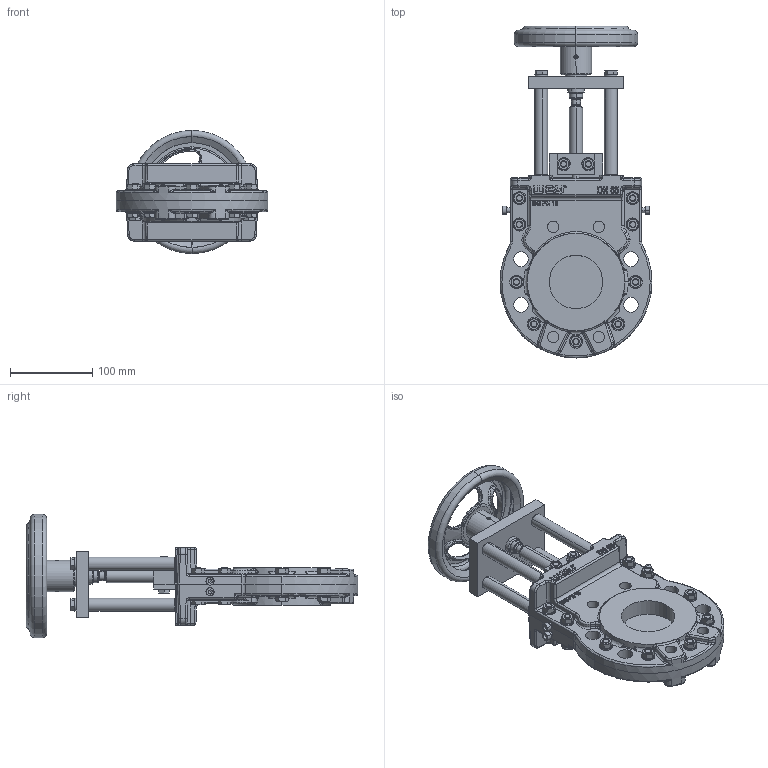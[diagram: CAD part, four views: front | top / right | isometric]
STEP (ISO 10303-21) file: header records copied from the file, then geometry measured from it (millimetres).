
FILE_DESCRIPTION (( 'STEP AP214' ), '1' );
FILE_NAME ('MGA DN 0065 PN16 (DH 150).STEP', '2015-09-23T08:01:12', ( 'admin' ), ( 'Hewlett-Packard Company' ), 'SwSTEP 2.0', 'SolidWorks 2013', '' );
FILE_SCHEMA (( 'AUTOMOTIVE_DESIGN' ));
Length unit declared in the file: millimetre
Products named in the file (1): MGA DN 0065 PN16 (DH 150)
Bounding box: 185 x 404 x 150 mm (x, y, z)
Volume: 1683827.2 mm3; surface area: 319466.2 mm2
Topology: 58 solids, 67 shells, 2304 faces, 5431 edges, 3249 vertices
Faces by surface type: plane 799, cylinder 552, cone 431, bspline 324, torus 194, sphere 4
Entity records: 106908 total; most frequent: CARTESIAN_POINT 30518, ORIENTED_EDGE 10674, DIRECTION 10170, EDGE_CURVE 5337, AXIS2_PLACEMENT_3D 4010, VERTEX_POINT 3249, EDGE_LOOP 2520, UNCERTAINTY_MEASURE_WITH_UNIT 2364
